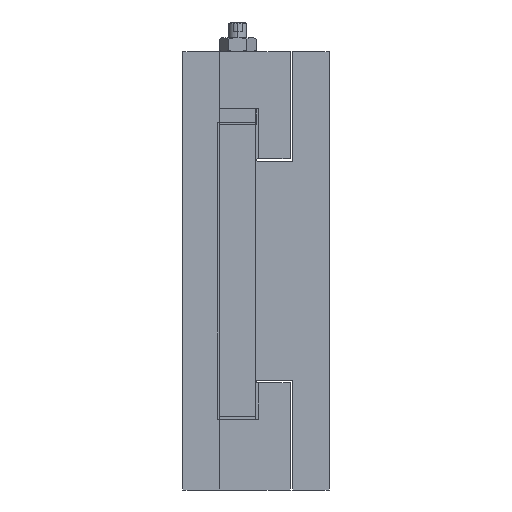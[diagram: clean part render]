
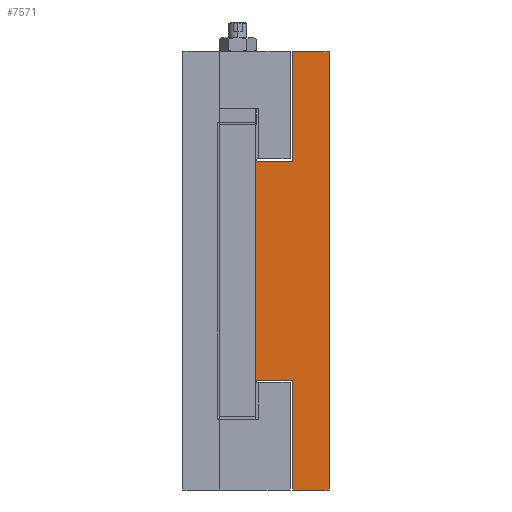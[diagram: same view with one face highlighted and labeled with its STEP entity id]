
A CAD part, left-side view. The second image highlights one B-rep face of the part: STEP entity #7571.
In plain terms, the highlighted planar face has unit normal (-1, 0, 0).
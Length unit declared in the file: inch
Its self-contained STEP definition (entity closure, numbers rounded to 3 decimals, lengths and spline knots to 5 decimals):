
#203 = ORIENTED_EDGE ( 'NONE', *, *, #7557, .F. ) ;
#205 = VERTEX_POINT ( 'NONE', #892 ) ;
#208 = VERTEX_POINT ( 'NONE', #891 ) ;
#212 = VERTEX_POINT ( 'NONE', #852 ) ;
#215 = EDGE_CURVE ( 'NONE', #6058, #212, #870, .T. ) ;
#852 = CARTESIAN_POINT ( 'NONE',  ( 0., 0.5, -3. ) ) ;
#866 = DIRECTION ( 'NONE',  ( 0., 0., -1. ) ) ;
#867 = VECTOR ( 'NONE', #866, 39.37008 ) ;
#868 = CARTESIAN_POINT ( 'NONE',  ( 0., 0.5, -3. ) ) ;
#870 = LINE ( 'NONE', #868, #867 ) ;
#891 = CARTESIAN_POINT ( 'NONE',  ( 0., 0.5, 3. ) ) ;
#892 = CARTESIAN_POINT ( 'NONE',  ( 0., 0., 3. ) ) ;
#1744 = CARTESIAN_POINT ( 'NONE',  ( 0., 1., 3. ) ) ;
#1745 = LINE ( 'NONE', #1744, #1795 ) ;
#1787 = CARTESIAN_POINT ( 'NONE',  ( 0., 1., -1.5 ) ) ;
#1794 = DIRECTION ( 'NONE',  ( 0., 0., 1. ) ) ;
#1795 = VECTOR ( 'NONE', #1794, 39.37008 ) ;
#1837 = CARTESIAN_POINT ( 'NONE',  ( 0., 0.5, -1.5 ) ) ;
#2891 = CARTESIAN_POINT ( 'NONE',  ( 0., 1., 1.5 ) ) ;
#4747 = CARTESIAN_POINT ( 'NONE',  ( 0., 1., -3. ) ) ;
#4748 = LINE ( 'NONE', #4747, #4797 ) ;
#4749 = DIRECTION ( 'NONE',  ( 0., 0., -1. ) ) ;
#4750 = VECTOR ( 'NONE', #4749, 39.37008 ) ;
#4752 = AXIS2_PLACEMENT_3D ( 'NONE', #4803, #4832, #4831 ) ;
#4756 = CARTESIAN_POINT ( 'NONE',  ( 0., 0., 3. ) ) ;
#4757 = LINE ( 'NONE', #4756, #4750 ) ;
#4793 = PLANE ( 'NONE',  #4752 ) ;
#4795 = FACE_OUTER_BOUND ( 'NONE', #7561, .T. ) ;
#4796 = DIRECTION ( 'NONE',  ( 0., 1., 0. ) ) ;
#4797 = VECTOR ( 'NONE', #4796, 39.37008 ) ;
#4802 = CARTESIAN_POINT ( 'NONE',  ( 0., 0., -3. ) ) ;
#4803 = CARTESIAN_POINT ( 'NONE',  ( 0., 0., 3. ) ) ;
#4831 = DIRECTION ( 'NONE',  ( 0., 0., -1. ) ) ;
#4832 = DIRECTION ( 'NONE',  ( 1., 0., 0. ) ) ;
#4839 = DIRECTION ( 'NONE',  ( 0., -1., 0. ) ) ;
#4840 = VECTOR ( 'NONE', #4839, 39.37008 ) ;
#4844 = CARTESIAN_POINT ( 'NONE',  ( 0., 1., -1.5 ) ) ;
#4845 = LINE ( 'NONE', #4844, #4840 ) ;
#4895 = LINE ( 'NONE', #4995, #4994 ) ;
#4927 = LINE ( 'NONE', #4992, #4990 ) ;
#4928 = CARTESIAN_POINT ( 'NONE',  ( 0., 0.5, 1.5 ) ) ;
#4939 = DIRECTION ( 'NONE',  ( 0., 1., 0. ) ) ;
#4940 = VECTOR ( 'NONE', #4939, 39.37008 ) ;
#4941 = CARTESIAN_POINT ( 'NONE',  ( 0., 1., 1.5 ) ) ;
#4942 = LINE ( 'NONE', #4941, #4940 ) ;
#4989 = DIRECTION ( 'NONE',  ( 0., -1., 0. ) ) ;
#4990 = VECTOR ( 'NONE', #4989, 39.37008 ) ;
#4992 = CARTESIAN_POINT ( 'NONE',  ( 0., 1., 3. ) ) ;
#4993 = DIRECTION ( 'NONE',  ( 0., 0., -1. ) ) ;
#4994 = VECTOR ( 'NONE', #4993, 39.37008 ) ;
#4995 = CARTESIAN_POINT ( 'NONE',  ( 0., 0.5, 3. ) ) ;
#6036 = EDGE_CURVE ( 'NONE', #6051, #6614, #1745, .T. ) ;
#6051 = VERTEX_POINT ( 'NONE', #1787 ) ;
#6058 = VERTEX_POINT ( 'NONE', #1837 ) ;
#6614 = VERTEX_POINT ( 'NONE', #2891 ) ;
#7557 = EDGE_CURVE ( 'NONE', #205, #7562, #4757, .T. ) ;
#7558 = ORIENTED_EDGE ( 'NONE', *, *, #7635, .T. ) ;
#7561 = EDGE_LOOP ( 'NONE', ( #7566, #7565, #7567, #203, #7563, #7632, #7558, #7634 ) ) ;
#7562 = VERTEX_POINT ( 'NONE', #4802 ) ;
#7563 = ORIENTED_EDGE ( 'NONE', *, *, #7647, .F. ) ;
#7565 = ORIENTED_EDGE ( 'NONE', *, *, #215, .T. ) ;
#7566 = ORIENTED_EDGE ( 'NONE', *, *, #7594, .T. ) ;
#7567 = ORIENTED_EDGE ( 'NONE', *, *, #7568, .F. ) ;
#7568 = EDGE_CURVE ( 'NONE', #7562, #212, #4748, .T. ) ;
#7571 = ADVANCED_FACE ( 'NONE', ( #4795 ), #4793, .F. ) ;
#7594 = EDGE_CURVE ( 'NONE', #6051, #6058, #4845, .T. ) ;
#7632 = ORIENTED_EDGE ( 'NONE', *, *, #7646, .T. ) ;
#7634 = ORIENTED_EDGE ( 'NONE', *, *, #6036, .F. ) ;
#7635 = EDGE_CURVE ( 'NONE', #7645, #6614, #4942, .T. ) ;
#7645 = VERTEX_POINT ( 'NONE', #4928 ) ;
#7646 = EDGE_CURVE ( 'NONE', #208, #7645, #4895, .T. ) ;
#7647 = EDGE_CURVE ( 'NONE', #208, #205, #4927, .T. ) ;
